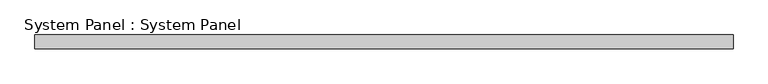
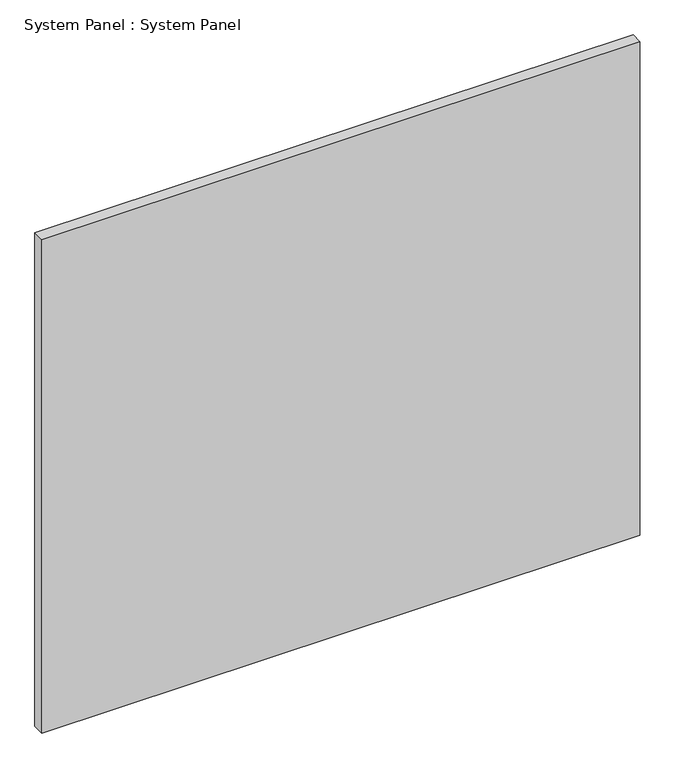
"""IFC4 building model written with IfcOpenShell, lengths in millimetres: plate geometry, System Panel : System Panel."""

from ifc_helpers import new_model, si_unit, origin, origin_with_axes, place, context, project, spatial, polyline, outline, extrude, source, transform, mapped, element, save


def system_panel_system_panel_35b29ec2(model_context):
    return source(origin(), model_context, "Body", "SweptSolid", [
        extrude(outline(polyline([(644.525, 19.05), (-644.525, 19.05), (-644.525, 44.45), (644.525, 44.45), (644.525, 19.05)])), origin_with_axes(), (0.0, 0.0, 1.0), 1123.95),
    ])


if __name__ == "__main__":
    model = new_model("IFC4")
    model_context = context("Model", 3, world=origin())
    ifc_project = project(units=[si_unit("LENGTHUNIT", "METRE", prefix="MILLI")], contexts=[model_context])
    site = spatial("IfcSite", under=ifc_project)
    building = spatial("IfcBuilding", under=site)
    placement = place(None, origin())
    system_panel_system_panel_shape = system_panel_system_panel_35b29ec2(model_context)
    element("IfcPlate", 1, ObjectType="System Panel : System Panel", at=placement, inside=building, context=model_context, shape_type="MappedRepresentation", body=[
        mapped(system_panel_system_panel_shape, transform((0.0, 0.0, 0.0), x_axis=(1.0, 0.0, 0.0), y_axis=(0.0, 1.0, 0.0), z_axis=(0.0, 0.0, 1.0))),
    ])
    save(model, "model.ifc")
